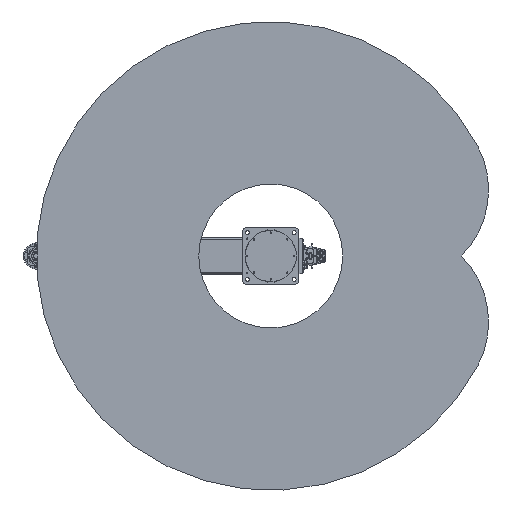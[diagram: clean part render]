
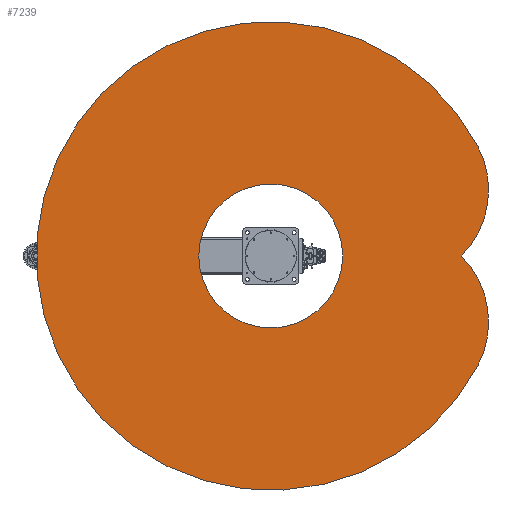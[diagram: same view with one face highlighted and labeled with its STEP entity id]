
A CAD part, front view. The second image highlights one B-rep face of the part: STEP entity #7239.
In plain terms, the highlighted planar face has unit normal (0, -1, 0).
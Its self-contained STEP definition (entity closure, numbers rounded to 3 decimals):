
#7239 = ADVANCED_FACE( '', ( #15373, #15374 ), #15375, .F. );
#15373 = FACE_BOUND( '', #24596, .T. );
#15374 = FACE_OUTER_BOUND( '', #24597, .T. );
#15375 = PLANE( '', #24598 );
#24596 = EDGE_LOOP( '', ( #44302 ) );
#24597 = EDGE_LOOP( '', ( #44303, #44304, #44305 ) );
#24598 = AXIS2_PLACEMENT_3D( '', #44306, #44307, #44308 );
#44302 = ORIENTED_EDGE( '', *, *, #46637, .T. );
#44303 = ORIENTED_EDGE( '', *, *, #47920, .F. );
#44304 = ORIENTED_EDGE( '', *, *, #51177, .F. );
#44305 = ORIENTED_EDGE( '', *, *, #51482, .F. );
#44306 = CARTESIAN_POINT( '', ( 140.842, 0., 264.885 ) );
#44307 = DIRECTION( '', ( 0., 1., 0. ) );
#44308 = DIRECTION( '', ( 0., 0., 1. ) );
#46637 = EDGE_CURVE( '', #55769, #55769, #55770, .T. );
#47920 = EDGE_CURVE( '', #57804, #57805, #57806, .T. );
#51177 = EDGE_CURVE( '', #62371, #57804, #62372, .T. );
#51482 = EDGE_CURVE( '', #57805, #62371, #62725, .T. );
#55769 = VERTEX_POINT( '', #69363 );
#55770 = CIRCLE( '', #69364, 307. );
#57804 = VERTEX_POINT( '', #72820 );
#57805 = VERTEX_POINT( '', #72821 );
#57806 = CIRCLE( '', #72822, 400. );
#62371 = VERTEX_POINT( '', #80899 );
#62372 = CIRCLE( '', #80900, 400. );
#62725 = CIRCLE( '', #81515, 1000. );
#69363 = CARTESIAN_POINT( '', ( 307., 0., 0. ) );
#69364 = AXIS2_PLACEMENT_3D( '', #85065, #85066, #85067 );
#72820 = CARTESIAN_POINT( '', ( 0., 0., 813.767 ) );
#72821 = CARTESIAN_POINT( '', ( 470.133, 0., 882.596 ) );
#72822 = AXIS2_PLACEMENT_3D( '', #86587, #86588, #86589 );
#80899 = CARTESIAN_POINT( '', ( -470.133, 0., 882.596 ) );
#80900 = AXIS2_PLACEMENT_3D( '', #90280, #90281, #90282 );
#81515 = AXIS2_PLACEMENT_3D( '', #90501, #90502, #90503 );
#85065 = CARTESIAN_POINT( '', ( 0., 0., 0. ) );
#85066 = DIRECTION( '', ( 0., 1., 0. ) );
#85067 = DIRECTION( '', ( 1., 0., 0. ) );
#86587 = CARTESIAN_POINT( '', ( 281.683, 0., 529.769 ) );
#86588 = DIRECTION( '', ( 0., 1., 0. ) );
#86589 = DIRECTION( '', ( 1., 0., 0. ) );
#90280 = CARTESIAN_POINT( '', ( -281.683, 0., 529.769 ) );
#90281 = DIRECTION( '', ( 0., 1., 0. ) );
#90282 = DIRECTION( '', ( 1., 0., 0. ) );
#90501 = CARTESIAN_POINT( '', ( 0., 0., 0. ) );
#90502 = DIRECTION( '', ( 0., 1., 0. ) );
#90503 = DIRECTION( '', ( 1., 0., 0. ) );
